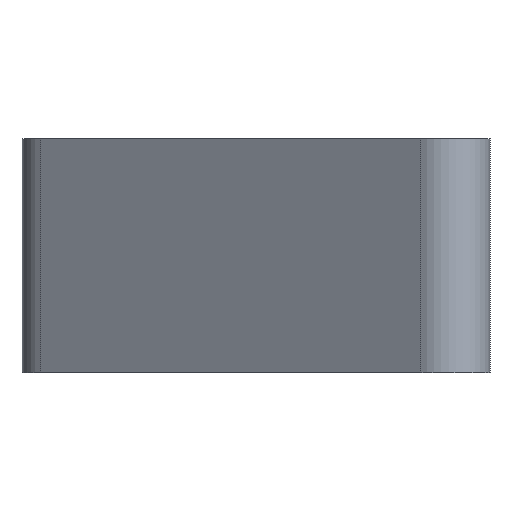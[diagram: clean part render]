
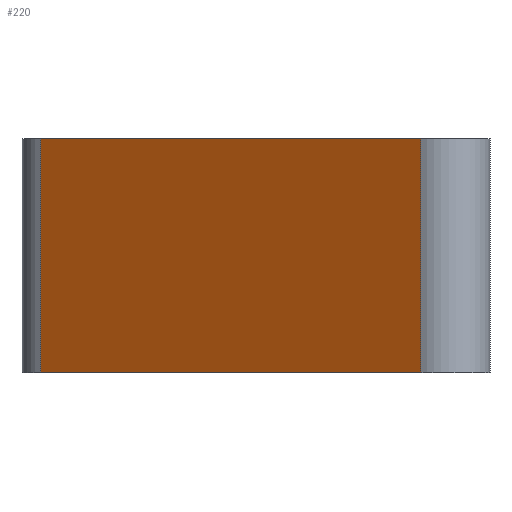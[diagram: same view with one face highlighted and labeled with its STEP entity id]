
A CAD part, left-side view. The second image highlights one B-rep face of the part: STEP entity #220.
In plain terms, the highlighted planar face has unit normal (-0.819, 0.574, 0).
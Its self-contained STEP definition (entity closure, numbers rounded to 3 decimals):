
#148=VERTEX_POINT('',#400);
#150=VERTEX_POINT('',#402);
#196=EDGE_CURVE('',#312,#294,#452,.T.);
#220=ADVANCED_FACE('',(#478),#479,.T.);
#236=EDGE_CURVE('',#294,#150,#497,.T.);
#294=VERTEX_POINT('',#561);
#312=VERTEX_POINT('',#579);
#350=EDGE_CURVE('',#312,#148,#623,.T.);
#358=EDGE_CURVE('',#148,#150,#631,.T.);
#400=CARTESIAN_POINT('',(8.537,12.192,-6.35));
#402=CARTESIAN_POINT('',(1.312,1.874,-6.35));
#452=LINE('',#735,#736);
#478=FACE_OUTER_BOUND('',#769,.T.);
#479=PLANE('',#770);
#497=LINE('',#795,#796);
#561=CARTESIAN_POINT('',(1.312,1.874,0.0));
#579=CARTESIAN_POINT('',(8.537,12.192,0.0));
#623=LINE('',#971,#972);
#631=LINE('',#984,#985);
#735=CARTESIAN_POINT('',(8.537,12.192,0.0));
#736=VECTOR('',#1081,1.0);
#769=EDGE_LOOP('',(#1111,#1112,#1113,#1114));
#770=AXIS2_PLACEMENT_3D('',#1115,#1116,#1117);
#795=CARTESIAN_POINT('',(1.312,1.874,0.0));
#796=VECTOR('',#1137,1.0);
#971=CARTESIAN_POINT('',(8.537,12.192,0.0));
#972=VECTOR('',#1282,1.0);
#984=CARTESIAN_POINT('',(8.537,12.192,-6.35));
#985=VECTOR('',#1287,1.0);
#1081=DIRECTION('',(-0.574,-0.819,0.0));
#1111=ORIENTED_EDGE('',*,*,#358,.T.);
#1112=ORIENTED_EDGE('',*,*,#236,.F.);
#1113=ORIENTED_EDGE('',*,*,#196,.F.);
#1114=ORIENTED_EDGE('',*,*,#350,.T.);
#1115=CARTESIAN_POINT('',(8.537,12.192,0.0));
#1116=DIRECTION('',(-0.819,0.574,0.0));
#1117=DIRECTION('',(0.574,0.819,-0.0));
#1137=DIRECTION('',(0.0,0.0,-1.0));
#1282=DIRECTION('',(0.0,0.0,-1.0));
#1287=DIRECTION('',(-0.574,-0.819,0.0));
